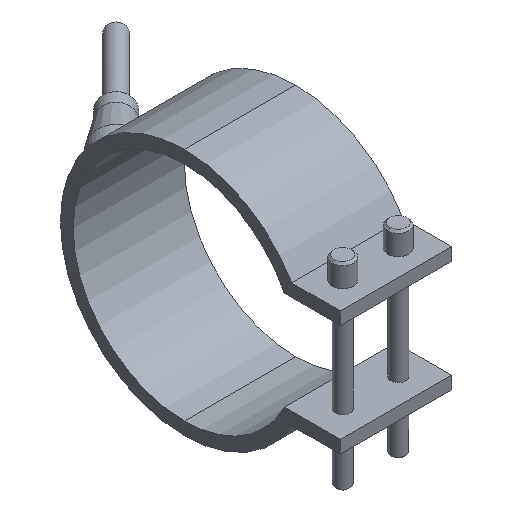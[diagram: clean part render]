
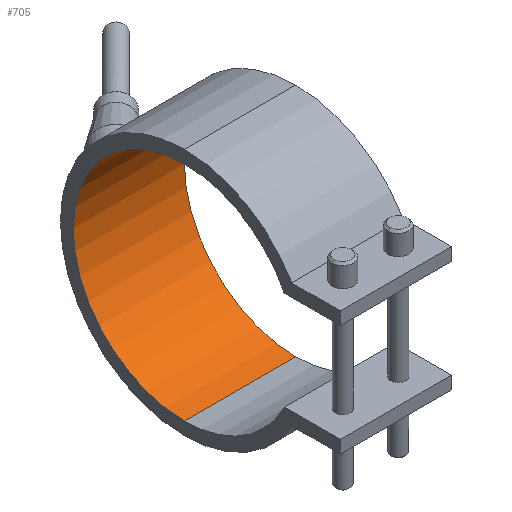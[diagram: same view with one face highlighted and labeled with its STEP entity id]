
A CAD part, isometric view. The second image highlights one B-rep face of the part: STEP entity #705.
In plain terms, the highlighted cylindrical face has radius 35 mm (diameter 70 mm), a partial arc.
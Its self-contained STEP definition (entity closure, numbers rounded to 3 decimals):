
#375=CARTESIAN_POINT('Vertex',(17.5,0.,35.)) ;
#380=CARTESIAN_POINT('Axis2P3D Location',(17.5,0.,0.)) ;
#384=CARTESIAN_POINT('Vertex',(17.5,0.,-35.)) ;
#491=CARTESIAN_POINT('Vertex',(-17.5,0.,-35.)) ;
#494=CARTESIAN_POINT('Axis2P3D Location',(-17.5,0.,0.)) ;
#498=CARTESIAN_POINT('Vertex',(-17.5,0.,35.)) ;
#677=CARTESIAN_POINT('Line Origine',(17.5,0.,35.)) ;
#689=CARTESIAN_POINT('Axis2P3D Location',(17.5,0.,0.)) ;
#694=CARTESIAN_POINT('Line Origine',(17.5,0.,-35.)) ;
#381=DIRECTION('Axis2P3D Direction',(1.,0.,0.)) ;
#495=DIRECTION('Axis2P3D Direction',(1.,0.,0.)) ;
#678=DIRECTION('Vector Direction',(1.,0.,0.)) ;
#690=DIRECTION('Axis2P3D Direction',(1.,0.,-0.)) ;
#691=DIRECTION('Axis2P3D XDirection',(0.,0.,-1.)) ;
#695=DIRECTION('Vector Direction',(1.,0.,0.)) ;
#382=AXIS2_PLACEMENT_3D('Circle Axis2P3D',#380,#381,$) ;
#496=AXIS2_PLACEMENT_3D('Circle Axis2P3D',#494,#495,$) ;
#692=AXIS2_PLACEMENT_3D('Cylinder Axis2P3D',#689,#690,#691) ;
#700=ORIENTED_EDGE('',*,*,#386,.T.) ;
#701=ORIENTED_EDGE('',*,*,#681,.T.) ;
#702=ORIENTED_EDGE('',*,*,#500,.F.) ;
#703=ORIENTED_EDGE('',*,*,#698,.T.) ;
#679=VECTOR('Line Direction',#678,1.) ;
#696=VECTOR('Line Direction',#695,1.) ;
#705=ADVANCED_FACE('29070035',(#704),#693,.F.) ;
#383=CIRCLE('generated circle',#382,35.) ;
#497=CIRCLE('generated circle',#496,35.) ;
#693=CYLINDRICAL_SURFACE('generated cylinder',#692,35.) ;
#386=EDGE_CURVE('',#385,#376,#383,.T.) ;
#500=EDGE_CURVE('',#492,#499,#497,.T.) ;
#681=EDGE_CURVE('',#376,#499,#680,.F.) ;
#698=EDGE_CURVE('',#492,#385,#697,.T.) ;
#699=EDGE_LOOP('',(#700,#701,#702,#703)) ;
#704=FACE_OUTER_BOUND('',#699,.T.) ;
#680=LINE('Line',#677,#679) ;
#697=LINE('Line',#694,#696) ;
#376=VERTEX_POINT('',#375) ;
#385=VERTEX_POINT('',#384) ;
#492=VERTEX_POINT('',#491) ;
#499=VERTEX_POINT('',#498) ;
